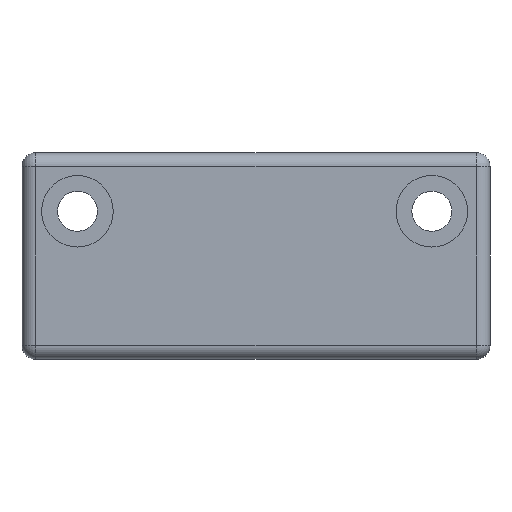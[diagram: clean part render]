
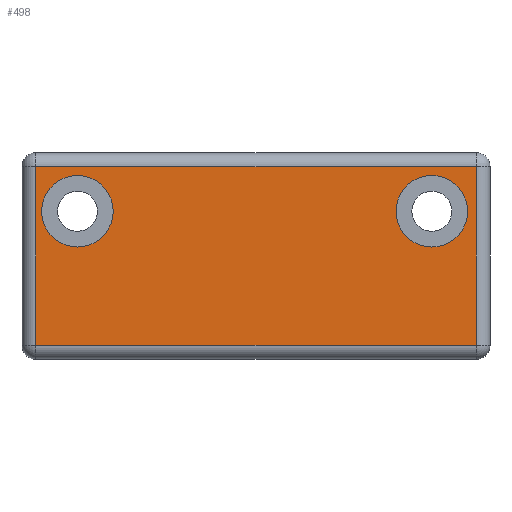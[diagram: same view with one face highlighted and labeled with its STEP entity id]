
A CAD part, front view. The second image highlights one B-rep face of the part: STEP entity #498.
In plain terms, the highlighted planar face has unit normal (0, -1, 0).
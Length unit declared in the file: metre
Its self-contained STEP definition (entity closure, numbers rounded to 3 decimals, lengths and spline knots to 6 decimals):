
#32=CIRCLE('',#549,0.0026);
#33=CIRCLE('',#550,0.0026);
#88=ORIENTED_EDGE('',*,*,#219,.T.);
#89=ORIENTED_EDGE('',*,*,#220,.T.);
#90=ORIENTED_EDGE('',*,*,#221,.T.);
#91=ORIENTED_EDGE('',*,*,#222,.T.);
#92=ORIENTED_EDGE('',*,*,#223,.T.);
#93=ORIENTED_EDGE('',*,*,#224,.T.);
#219=EDGE_CURVE('',#282,#283,#327,.T.);
#220=EDGE_CURVE('',#283,#284,#328,.T.);
#221=EDGE_CURVE('',#284,#285,#329,.F.);
#222=EDGE_CURVE('',#285,#282,#330,.F.);
#223=EDGE_CURVE('',#286,#286,#32,.T.);
#224=EDGE_CURVE('',#287,#287,#33,.T.);
#282=VERTEX_POINT('',#821);
#283=VERTEX_POINT('',#822);
#284=VERTEX_POINT('',#824);
#285=VERTEX_POINT('',#826);
#286=VERTEX_POINT('',#829);
#287=VERTEX_POINT('',#831);
#327=LINE('',#820,#371);
#328=LINE('',#823,#372);
#329=LINE('',#825,#373);
#330=LINE('',#827,#374);
#371=VECTOR('',#645,1.);
#372=VECTOR('',#646,1.);
#373=VECTOR('',#647,1.);
#374=VECTOR('',#648,1.);
#394=EDGE_LOOP('',(#88,#89,#90,#91));
#395=EDGE_LOOP('',(#92));
#396=EDGE_LOOP('',(#93));
#438=FACE_BOUND('',#394,.T.);
#439=FACE_BOUND('',#395,.T.);
#440=FACE_BOUND('',#396,.T.);
#481=PLANE('',#548);
#498=ADVANCED_FACE('',(#438,#439,#440),#481,.T.);
#548=AXIS2_PLACEMENT_3D('',#819,#643,#644);
#549=AXIS2_PLACEMENT_3D('',#828,#649,#650);
#550=AXIS2_PLACEMENT_3D('',#830,#651,#652);
#643=DIRECTION('',(0.,-1.,0.));
#644=DIRECTION('',(1.,0.,0.));
#645=DIRECTION('',(0.,0.,-1.));
#646=DIRECTION('',(1.,0.,0.));
#647=DIRECTION('',(0.,0.,-1.));
#648=DIRECTION('',(1.,0.,0.));
#649=DIRECTION('',(0.,1.,0.));
#650=DIRECTION('',(0.,0.,1.));
#651=DIRECTION('',(0.,1.,0.));
#652=DIRECTION('',(0.,0.,1.));
#819=CARTESIAN_POINT('',(0.,-0.017,0.0222));
#820=CARTESIAN_POINT('',(-0.016,-0.017,0.0147));
#821=CARTESIAN_POINT('',(-0.016,-0.017,0.0287));
#822=CARTESIAN_POINT('',(-0.016,-0.017,0.0157));
#823=CARTESIAN_POINT('',(0.017,-0.017,0.0157));
#824=CARTESIAN_POINT('',(0.016,-0.017,0.0157));
#825=CARTESIAN_POINT('',(0.016,-0.017,0.0222));
#826=CARTESIAN_POINT('',(0.016,-0.017,0.0287));
#827=CARTESIAN_POINT('',(0.,-0.017,0.0287));
#828=CARTESIAN_POINT('',(0.012775,-0.017,0.02545));
#829=CARTESIAN_POINT('',(0.012775,-0.017,0.02805));
#830=CARTESIAN_POINT('',(-0.012975,-0.017,0.02545));
#831=CARTESIAN_POINT('',(-0.012975,-0.017,0.02805));
